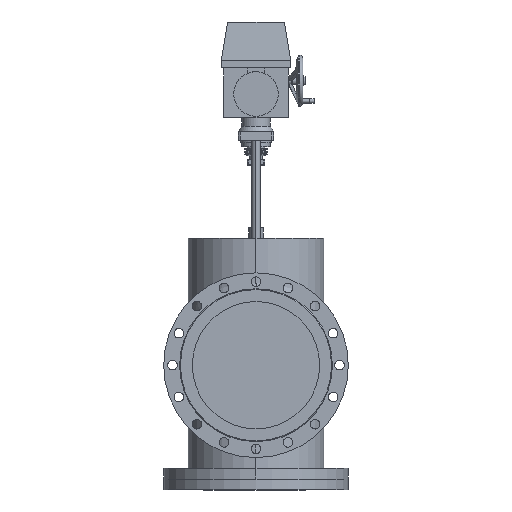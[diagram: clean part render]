
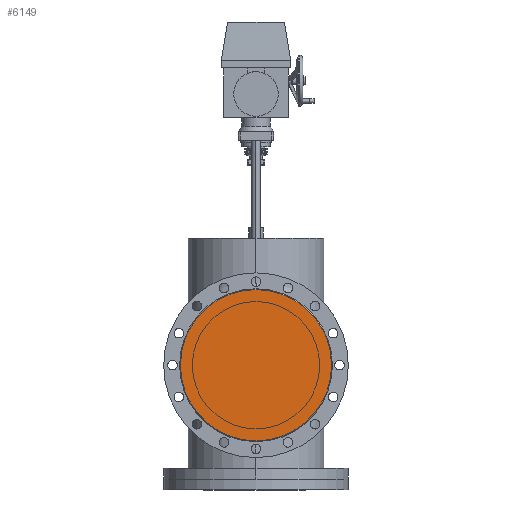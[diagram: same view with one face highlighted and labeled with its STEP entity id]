
A CAD part, left-side view. The second image highlights one B-rep face of the part: STEP entity #6149.
In plain terms, the highlighted planar face has unit normal (-1, 0, 0).
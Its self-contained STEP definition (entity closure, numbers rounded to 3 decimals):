
#1508=FACE_OUTER_BOUND('',#1940,.T.);
#1940=EDGE_LOOP('',(#5116,#5117));
#2364=CIRCLE('',#6858,237.5);
#2365=CIRCLE('',#6859,237.5);
#2872=VERTEX_POINT('',#11204);
#2873=VERTEX_POINT('',#11205);
#3634=EDGE_CURVE('',#2872,#2873,#2364,.T.);
#3635=EDGE_CURVE('',#2873,#2872,#2365,.T.);
#5116=ORIENTED_EDGE('',*,*,#3634,.T.);
#5117=ORIENTED_EDGE('',*,*,#3635,.T.);
#5477=PLANE('',#6857);
#6149=ADVANCED_FACE('',(#1508),#5477,.T.);
#6857=AXIS2_PLACEMENT_3D('',#11203,#8560,#8561);
#6858=AXIS2_PLACEMENT_3D('',#11206,#8562,#8563);
#6859=AXIS2_PLACEMENT_3D('',#11207,#8564,#8565);
#8560=DIRECTION('center_axis',(-1.,0.,0.));
#8561=DIRECTION('ref_axis',(0.,-1.,0.));
#8562=DIRECTION('center_axis',(-1.,0.,0.));
#8563=DIRECTION('ref_axis',(0.,0.,
1.));
#8564=DIRECTION('center_axis',(-1.,0.,0.));
#8565=DIRECTION('ref_axis',(0.,0.,
-1.));
#11203=CARTESIAN_POINT('Origin',(-457.,0.,0.));
#11204=CARTESIAN_POINT('',(-457.,0.,237.5));
#11205=CARTESIAN_POINT('',(-457.,0.,-237.5));
#11206=CARTESIAN_POINT('Origin',(-457.,0.,0.));
#11207=CARTESIAN_POINT('Origin',(-457.,0.,0.));
